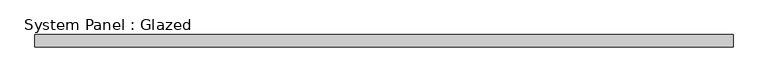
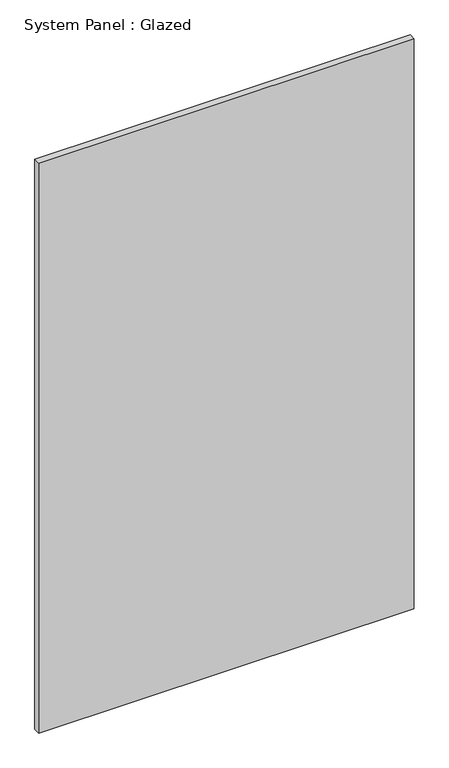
"""IFC4 building model written with IfcOpenShell, lengths in millimetres: plate geometry, System Panel : Glazed."""

import ifcopenshell
import ifcopenshell.guid

model = None  # the IFC model being written
_history = None  # IfcOwnerHistory: only IFC2X3 demands one
_inside = {}  # id of a spatial element -> (the spatial element, [elements in it])
_under = {}  # id of a project, library or spatial element -> (it, [spatial elements below it])
_declared = {}  # id of a project -> (the project, [libraries it declares])
_typed = {}  # id of a type object -> (the type object, [elements of that type])
_made_of = {}  # id of a material, layer set ... -> (it, [elements and type objects made of it])


def new_model(schema):
    """Start an empty IFC model of exactly this schema.

    Asked for "IFC4X3", IfcOpenShell would pick the latest addendum, in which some entities
    have other attributes; the version numbers below select the first issue.
    IFC2X3 requires an IfcOwnerHistory on every rooted entity: one is made here for all.
    """
    global model, _history
    if schema == "IFC4X3":
        model = ifcopenshell.file(schema_version=(4, 3, 0, 0))
    else:
        model = ifcopenshell.file(schema=schema)
    _inside.clear()
    _under.clear()
    _declared.clear()
    _typed.clear()
    _made_of.clear()
    _history = None
    if model.schema == "IFC2X3":
        org = make("IfcOrganization", Name="unknown")
        user = make(
            "IfcPersonAndOrganization",
            ThePerson=make("IfcPerson", FamilyName="unknown"),
            TheOrganization=org,
        )
        app = make(
            "IfcApplication",
            ApplicationDeveloper=org,
            Version="unknown",
            ApplicationFullName="unknown",
            ApplicationIdentifier="unknown",
        )
        _history = make(
            "IfcOwnerHistory",
            OwningUser=user,
            OwningApplication=app,
            ChangeAction="ADDED",
            CreationDate=0,
        )
    return model


def make(cls, **values):
    """One entity of the class cls with the attributes given. An attribute that is None is left unset."""
    return model.create_entity(
        cls, **{name: value for name, value in values.items() if value is not None}
    )


def rooted(cls, **values):
    """An entity with a GlobalId (a new one), such as an element, a storey or a relation."""
    return make(cls, GlobalId=ifcopenshell.guid.new(), OwnerHistory=_history, **values)


def si_unit(unit_type, name, prefix=None):
    """IfcSIUnit, for example si_unit("LENGTHUNIT", "METRE", prefix="MILLI")."""
    return make("IfcSIUnit", UnitType=unit_type, Prefix=prefix, Name=name)


def assignment(units):
    """IfcUnitAssignment: the units of a project."""
    return None if units is None else make("IfcUnitAssignment", Units=units)


def point(xyz):
    """IfcCartesianPoint."""
    return None if xyz is None else make("IfcCartesianPoint", Coordinates=xyz)


def direction(xyz):
    """IfcDirection."""
    return None if xyz is None else make("IfcDirection", DirectionRatios=xyz)


def frame(location, z_axis=None, x_axis=None):
    """IfcAxis2Placement3D, a coordinate frame: its origin and axes. An axis left out is left unset."""
    return make(
        "IfcAxis2Placement3D",
        Location=point(location),
        Axis=direction(z_axis),
        RefDirection=direction(x_axis),
    )


def origin():
    """The frame at (0, 0, 0) with its axes left unset."""
    return frame((0.0, 0.0, 0.0))


def origin_with_axes():
    """The frame at (0, 0, 0) with the z axis (0, 0, 1) and the x axis (1, 0, 0) written out."""
    return frame((0.0, 0.0, 0.0), z_axis=(0.0, 0.0, 1.0), x_axis=(1.0, 0.0, 0.0))


def place(relative_to, where):
    """IfcLocalPlacement: puts the frame where relative to a parent placement (None: the world)."""
    return make(
        "IfcLocalPlacement", PlacementRelTo=relative_to, RelativePlacement=where
    )


def context(
    kind, dimensions, precision=None, world=None, true_north=None, identifier=None
):
    """IfcGeometricRepresentationContext, for example the 3D "Model" context."""
    return make(
        "IfcGeometricRepresentationContext",
        ContextIdentifier=identifier,
        ContextType=kind,
        CoordinateSpaceDimension=dimensions,
        Precision=precision,
        WorldCoordinateSystem=world,
        TrueNorth=true_north,
    )


def project(units=None, contexts=None):
    """IfcProject with its units and contexts."""
    return rooted(
        "IfcProject",
        Name="project",
        RepresentationContexts=contexts,
        UnitsInContext=assignment(units),
    )


def spatial(cls, under=None, at=None, **own):
    """A site, building, storey or space (cls), placed at a placement, below another one or the project."""
    s = rooted(cls, ObjectPlacement=at, **own)
    if under is not None:
        _under.setdefault(under.id(), (under, []))[1].append(s)
    return s


def polyline(points):
    """IfcPolyline through the points."""
    return make("IfcPolyline", Points=[point(p) for p in points])


def outline(outer, holes=None, kind="AREA"):
    """IfcArbitraryClosedProfileDef: a profile drawn as a closed curve; with holes, ...WithVoids."""
    if holes is None:
        return make("IfcArbitraryClosedProfileDef", ProfileType=kind, OuterCurve=outer)
    return make(
        "IfcArbitraryProfileDefWithVoids",
        ProfileType=kind,
        OuterCurve=outer,
        InnerCurves=holes,
    )


def extrude(swept, where, along, depth):
    """IfcExtrudedAreaSolid: the profile swept, set in the frame where, extruded along a direction by depth."""
    return make(
        "IfcExtrudedAreaSolid",
        SweptArea=swept,
        Position=where,
        ExtrudedDirection=direction(along),
        Depth=depth,
    )


def shape(context_of_items, identifier, shape_type, items):
    """IfcShapeRepresentation: the items that make up one representation, for example the "Body"."""
    return make(
        "IfcShapeRepresentation",
        ContextOfItems=context_of_items,
        RepresentationIdentifier=identifier,
        RepresentationType=shape_type,
        Items=items,
    )


def source(mapping_origin, context_of_items, identifier, shape_type, items):
    """IfcRepresentationMap: a shape defined once, which mapped items show again and again."""
    return make(
        "IfcRepresentationMap",
        MappingOrigin=mapping_origin,
        MappedRepresentation=shape(context_of_items, identifier, shape_type, items),
    )


def transform(
    local_origin,
    x_axis=None,
    y_axis=None,
    z_axis=None,
    scale=None,
    scale2=None,
    scale3=None,
    uniform=True,
):
    """IfcCartesianTransformationOperator3D, or its non-uniform kind. x_axis, y_axis, z_axis: its Axis1, 2, 3."""
    if uniform:
        return make(
            "IfcCartesianTransformationOperator3D",
            Axis1=direction(x_axis),
            Axis2=direction(y_axis),
            LocalOrigin=point(local_origin),
            Scale=scale,
            Axis3=direction(z_axis),
        )
    return make(
        "IfcCartesianTransformationOperator3DnonUniform",
        Axis1=direction(x_axis),
        Axis2=direction(y_axis),
        LocalOrigin=point(local_origin),
        Scale=scale,
        Axis3=direction(z_axis),
        Scale2=scale2,
        Scale3=scale3,
    )


def mapped(mapping_source, mapping_target):
    """IfcMappedItem: shows the shape of a source again, moved by a transform."""
    return make(
        "IfcMappedItem", MappingSource=mapping_source, MappingTarget=mapping_target
    )


def made_of(thing, what):
    """Note that an element or type object is made of a material, layer set ...; save() writes the relation."""
    if what is not None:
        _made_of.setdefault(what.id(), (what, []))[1].append(thing)
    return thing


def element(
    cls,
    number,
    at=None,
    inside=None,
    cuts=None,
    type_object=None,
    material=None,
    context=None,
    identifier="Body",
    shape_type=None,
    held_by="IfcProductDefinitionShape",
    body=None,
    shapes=None,
    **own,
):
    """One element of the class cls, such as IfcWall. Its Tag is "e" and its number.

    at: its placement. inside: the storey or other place that contains it. cuts: it is an
    opening in that element (IfcRelVoidsElement). A single representation is given by context,
    identifier, shape_type and body (its items); several are given by shapes. held_by: the class
    of the entity that holds the representations. save() writes the other relations.
    """
    e = rooted(cls, Tag="e%d" % number, ObjectPlacement=at, **own)
    if body is not None:
        shapes = [shape(context, identifier, shape_type, body)]
    if shapes is not None:
        e.Representation = make(held_by, Representations=shapes)
    if inside is not None:
        _inside.setdefault(inside.id(), (inside, []))[1].append(e)
    if cuts is not None:
        rooted(
            "IfcRelVoidsElement", RelatingBuildingElement=cuts, RelatedOpeningElement=e
        )
    if type_object is not None:
        _typed.setdefault(type_object.id(), (type_object, []))[1].append(e)
    return made_of(e, material)


def aggregate(whole, parts):
    """IfcRelAggregates: a whole, such as a stair, and the parts it consists of."""
    return rooted("IfcRelAggregates", RelatingObject=whole, RelatedObjects=parts)


def save(model, path):
    """Write the relations noted so far, then the file.

    IfcRelAggregates (storeys below a building ...), IfcRelContainedInSpatialStructure (elements
    in a storey), IfcRelDefinesByType, IfcRelAssociatesMaterial and IfcRelDeclares: one each for
    every whole, place, type object, material and project.
    """
    for whole, parts in _under.values():
        aggregate(whole, parts)
    for where, things in _inside.values():
        rooted(
            "IfcRelContainedInSpatialStructure",
            RelatedElements=things,
            RelatingStructure=where,
        )
    for kind, things in _typed.values():
        rooted("IfcRelDefinesByType", RelatedObjects=things, RelatingType=kind)
    for what, things in _made_of.values():
        rooted("IfcRelAssociatesMaterial", RelatedObjects=things, RelatingMaterial=what)
    for by, libraries in _declared.values():
        rooted("IfcRelDeclares", RelatingContext=by, RelatedDefinitions=libraries)
    model.write(path)


def system_panel_glazed_32f3d69c(model_context):
    return source(origin(), model_context, "Body", "SweptSolid", [
        extrude(outline(polyline([(730.25, -44.45), (-730.25, -44.45), (-730.25, -19.05), (730.25, -19.05), (730.25, -44.45)])), origin_with_axes(), (0.0, 0.0, 1.0), 2343.15),
    ])


if __name__ == "__main__":
    model = new_model("IFC4")
    model_context = context("Model", 3, world=origin())
    ifc_project = project(units=[si_unit("LENGTHUNIT", "METRE", prefix="MILLI")], contexts=[model_context])
    site = spatial("IfcSite", under=ifc_project)
    building = spatial("IfcBuilding", under=site)
    placement = place(None, origin())
    system_panel_glazed_shape = system_panel_glazed_32f3d69c(model_context)
    element("IfcPlate", 1, ObjectType="System Panel : Glazed", at=placement, inside=building, context=model_context, shape_type="MappedRepresentation", body=[
        mapped(system_panel_glazed_shape, transform((0.0, 0.0, 0.0), x_axis=(1.0, 0.0, 0.0), y_axis=(0.0, 1.0, 0.0), z_axis=(0.0, 0.0, 1.0))),
    ])
    save(model, "model.ifc")
